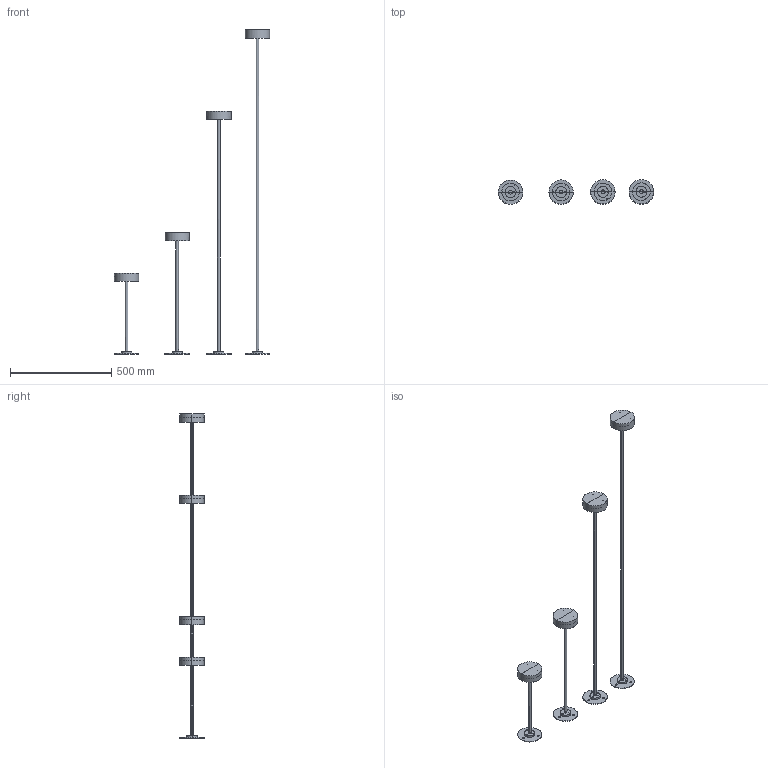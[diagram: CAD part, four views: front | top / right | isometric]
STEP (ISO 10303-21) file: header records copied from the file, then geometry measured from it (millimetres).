
FILE_DESCRIPTION(/* description */ (''),/* implementation_level */ '2;1');
FILE_NAME(/* name */ 'Bol',/* time_stamp */ '2025-06-18T18:30:32+02:00',/* author */ (''),/* organization */ (''),/* preprocessor_version */ 'ST-DEVELOPER v15',/* originating_system */ '',/* authorisation */ '');
FILE_SCHEMA (('CONFIG_CONTROL_DESIGN'));
Length unit declared in the file: millimetre
Products named in the file (1): Document
Bounding box: 766.15 x 119.78 x 1599.82 mm (x, y, z)
Volume: 1169172.4 mm3; surface area: 689904.2 mm2
Topology: 20 solids, 24 shells, 572 faces, 1244 edges, 712 vertices
Faces by surface type: bspline 572
Entity records: 32682 total; most frequent: CARTESIAN_POINT 17363, B_SPLINE_CURVE_WITH_KNOTS 2672, ORIENTED_EDGE 2456, PCURVE 2456, DEFINITIONAL_REPRESENTATION 2456, SURFACE_CURVE 1236, EDGE_CURVE 1236, VERTEX_POINT 712
